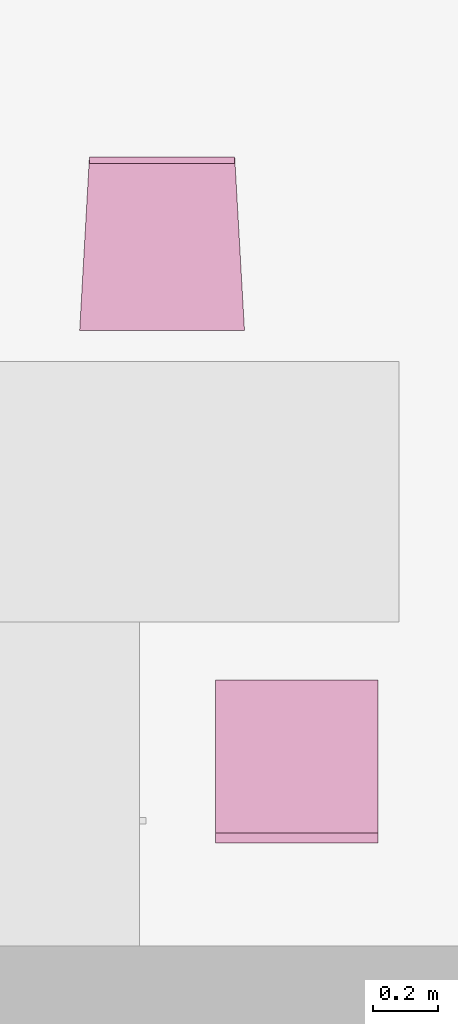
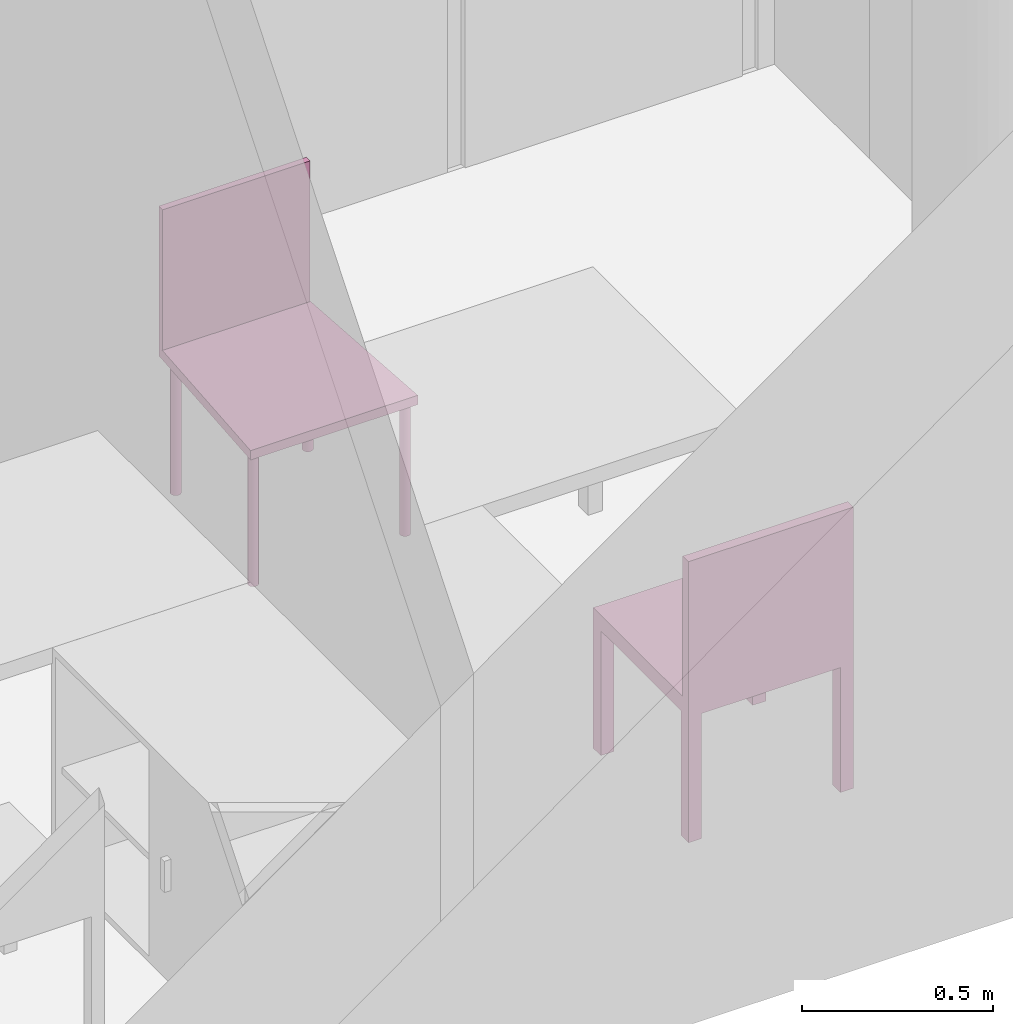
"""IFC4 building model written with IfcOpenShell, lengths in metres."""

from ifc_helpers import new_model, entity, si_unit, converted_unit, derived_unit, frame, origin, place, context, subcontext, project, spatial, faceted_brep, element, save


model = new_model("IFC4")

# Units and contexts
model_context = context("Model", 3, precision=1e-05, world=origin())
body_context = subcontext(model_context, "Body", "Model", "MODEL_VIEW")
ifc_project = project(units=[si_unit("LENGTHUNIT", "METRE"), si_unit("AREAUNIT", "SQUARE_METRE"), si_unit("VOLUMEUNIT", "CUBIC_METRE"), si_unit("MASSUNIT", "GRAM", prefix="KILO"), converted_unit("PLANEANGLEUNIT", "DEGREE", entity("IfcPlaneAngleMeasure", 0.0174532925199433), si_unit("PLANEANGLEUNIT", "RADIAN"), dimensions=[0, 0, 0, 0, 0, 0, 0]), derived_unit("THERMALTRANSMITTANCEUNIT", [(si_unit("POWERUNIT", "WATT"), 1), (si_unit("THERMODYNAMICTEMPERATUREUNIT", "KELVIN"), -1), (si_unit("LENGTHUNIT", "METRE"), -2)]), derived_unit("VOLUMETRICFLOWRATEUNIT", [(si_unit("LENGTHUNIT", "METRE"), 3), (converted_unit("TIMEUNIT", "hour", entity("IfcTimeMeasure", 3600.0), si_unit("TIMEUNIT", "SECOND"), dimensions=[0, 0, 1, 0, 0, 0, 0]), -1), (si_unit("LENGTHUNIT", "METRE"), -1)])], contexts=[model_context])

# Building, storeys
building_placement = place(None, origin())
building = spatial("IfcBuilding", under=ifc_project, at=building_placement, Name="HABITATGE PLURIFAMILIAR", CompositionType="ELEMENT")
storey_1_placement = place(building_placement, frame((0.0, 0.0, 6.25)))
storey_1 = spatial("IfcBuildingStorey", under=building, at=storey_1_placement, Name="PLANTA PRIMERA", CompositionType="ELEMENT", Elevation=6.25)
storey_2_placement = place(storey_1_placement, frame((0.0, 0.0, 3.35)))
storey_2 = spatial("IfcBuildingStorey", under=storey_1, at=storey_2_placement, Name="NOU", CompositionType="PARTIAL")

# Furniture
furniture_1_placement = place(storey_2_placement, frame((419.431199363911, 13.4382607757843, -3.34942958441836)))
element("IfcFurniture", 1, at=furniture_1_placement, inside=storey_2, Name="Cadira d'Oficina_P1", context=body_context, shape_type="Brep", body=[
    faceted_brep([(0.5, 0.5, 0.4), (0.0, 0.5, 0.4), (0.0, 0.0, 0.4), (0.5, 0.0, 0.4), (0.5, 0.0, 0.45), (0.0, 0.0, 0.45), (0.0, 0.5, 0.45), (0.5, 0.5, 0.45)], [[[0, 1, 2, 3]], [[4, 5, 6, 7]], [[3, 4, 7, 0]], [[2, 5, 4, 3]], [[1, 6, 5, 2]], [[0, 7, 6, 1]]], orient=[[False], [False], [False], [False], [False], [False]]),
    faceted_brep([(0.0, 0.04, 0.0), (0.0, 0.0, 0.0), (0.04, 0.0, 0.0), (0.04, 0.04, 0.0), (0.04, 0.04, 0.4), (0.04, 0.0, 0.4), (0.0, 0.0, 0.4), (0.0, 0.04, 0.4)], [[[0, 1, 2, 3]], [[4, 5, 6, 7]], [[3, 4, 7, 0]], [[2, 5, 4, 3]], [[1, 6, 5, 2]], [[0, 7, 6, 1]]], orient=[[False], [False], [False], [False], [False], [False]]),
    faceted_brep([(0.0, 0.5, 0.0), (0.0, 0.46, 0.0), (0.04, 0.46, 0.0), (0.04, 0.5, 0.0), (0.04, 0.5, 0.4), (0.04, 0.46, 0.4), (0.0, 0.46, 0.4), (0.0, 0.5, 0.4)], [[[0, 1, 2, 3]], [[4, 5, 6, 7]], [[3, 4, 7, 0]], [[2, 5, 4, 3]], [[1, 6, 5, 2]], [[0, 7, 6, 1]]], orient=[[False], [False], [False], [False], [False], [False]]),
    faceted_brep([(0.46, 0.04, 0.0), (0.46, 0.0, 0.0), (0.5, 0.0, 0.0), (0.5, 0.04, 0.0), (0.5, 0.04, 0.4), (0.5, 0.0, 0.4), (0.46, 0.0, 0.4), (0.46, 0.04, 0.4)], [[[0, 1, 2, 3]], [[4, 5, 6, 7]], [[3, 4, 7, 0]], [[2, 5, 4, 3]], [[1, 6, 5, 2]], [[0, 7, 6, 1]]], orient=[[False], [False], [False], [False], [False], [False]]),
    faceted_brep([(0.46, 0.5, 0.0), (0.46, 0.46, 0.0), (0.5, 0.46, 0.0), (0.5, 0.5, 0.0), (0.5, 0.5, 0.4), (0.5, 0.46, 0.4), (0.46, 0.46, 0.4), (0.46, 0.5, 0.4)], [[[0, 1, 2, 3]], [[4, 5, 6, 7]], [[3, 4, 7, 0]], [[2, 5, 4, 3]], [[1, 6, 5, 2]], [[0, 7, 6, 1]]], orient=[[False], [False], [False], [False], [False], [False]]),
    faceted_brep([(0.0, 0.03, 0.45), (0.0, 0.0, 0.45), (0.5, 0.0, 0.45), (0.5, 0.03, 0.45), (0.5, 0.03, 0.9), (0.5, 0.0, 0.9), (0.0, 0.0, 0.9), (0.0, 0.03, 0.9)], [[[0, 1, 2, 3]], [[4, 5, 6, 7]], [[3, 4, 7, 0]], [[2, 5, 4, 3]], [[1, 6, 5, 2]], [[0, 7, 6, 1]]], orient=[[False], [False], [False], [False], [False], [False]]),
])
furniture_2_placement = place(storey_2_placement, frame((419.014327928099, 15.013180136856, -3.35114412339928)))
element("IfcFurniture", 2, at=furniture_2_placement, inside=storey_2, Name="Cadira confient_P1", context=body_context, shape_type="Brep", body=[
    faceted_brep([(0.497227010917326, 0.0250324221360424, 0.0), (0.49701133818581, 0.0276273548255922, 0.0), (0.496348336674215, 0.0301454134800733, 0.0), (0.495258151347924, 0.0325100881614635, 0.0), (0.493773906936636, 0.0346495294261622, 0.0), (0.49194070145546, 0.0364987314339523, 0.0), (0.489814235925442, 0.0380015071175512, 0.0), (0.487459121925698, 0.0391121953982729, 0.0), (0.484946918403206, 0.0397970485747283, 0.0), (0.482353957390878, 0.0400352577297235, 0.0), (0.479759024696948, 0.0398195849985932, 0.0), (0.477240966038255, 0.0391565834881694, 0.0), (0.474876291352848, 0.0380663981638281, 0.0), (0.472736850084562, 0.0365821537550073, 0.0), (0.470887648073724, 0.0347489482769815, 0.0), (0.469384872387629, 0.0326224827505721, 0.0), (0.468274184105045, 0.0302673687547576, 0.0), (0.467589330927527, 0.0277551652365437, 0.0), (0.467351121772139, 0.0251622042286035, 0.0), (0.467566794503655, 0.0225672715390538, 0.0), (0.46822979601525, 0.0200492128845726, 0.0), (0.469319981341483, 0.0176845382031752, 0.0), (0.470804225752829, 0.0155450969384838, 0.0), (0.472637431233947, 0.0136958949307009, 0.0), (0.474763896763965, 0.012193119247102, 0.0), (0.477119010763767, 0.0110824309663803, 0.0), (0.479631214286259, 0.0103975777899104, 0.0), (0.482224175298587, 0.0101593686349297, 0.0), (0.484819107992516, 0.0103750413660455, 0.0), (0.48733716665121, 0.0110380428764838, 0.0), (0.489701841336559, 0.0121282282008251, 0.0), (0.491841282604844, 0.0136124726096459, 0.0), (0.493690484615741, 0.0154456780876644, 0.0), (0.495193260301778, 0.0175721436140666, 0.0), (0.49630394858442, 0.0199272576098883, 0.0), (0.496988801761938, 0.0224394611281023, 0.0), (0.497227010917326, 0.0250324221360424, 0.448281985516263), (0.496988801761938, 0.0224394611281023, 0.448281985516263), (0.49630394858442, 0.0199272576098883, 0.448281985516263), (0.495193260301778, 0.0175721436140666, 0.448281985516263), (0.493690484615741, 0.0154456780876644, 0.448281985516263), (0.491841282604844, 0.0136124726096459, 0.448281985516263), (0.489701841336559, 0.0121282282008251, 0.448281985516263), (0.48733716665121, 0.0110380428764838, 0.448281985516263), (0.484819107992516, 0.0103750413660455, 0.448281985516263), (0.482224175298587, 0.0101593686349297, 0.448281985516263), (0.479631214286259, 0.0103975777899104, 0.448281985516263), (0.477119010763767, 0.0110824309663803, 0.448281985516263), (0.474763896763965, 0.012193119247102, 0.448281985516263), (0.472637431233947, 0.0136958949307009, 0.448281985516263), (0.470804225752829, 0.0155450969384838, 0.448281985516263), (0.469319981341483, 0.0176845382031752, 0.448281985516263), (0.46822979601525, 0.0200492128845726, 0.448281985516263), (0.467566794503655, 0.0225672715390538, 0.448281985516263), (0.467351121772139, 0.0251622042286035, 0.448281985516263), (0.467589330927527, 0.0277551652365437, 0.448281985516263), (0.468274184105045, 0.0302673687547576, 0.448281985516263), (0.469384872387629, 0.0326224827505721, 0.448281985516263), (0.470887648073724, 0.0347489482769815, 0.448281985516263), (0.472736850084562, 0.0365821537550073, 0.448281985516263), (0.474876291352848, 0.0380663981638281, 0.448281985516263), (0.477240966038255, 0.0391565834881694, 0.448281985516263), (0.479759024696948, 0.0398195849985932, 0.448281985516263), (0.482353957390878, 0.0400352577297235, 0.448281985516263), (0.484946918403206, 0.0397970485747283, 0.448281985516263), (0.487459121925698, 0.0391121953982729, 0.448281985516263), (0.489814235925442, 0.0380015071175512, 0.448281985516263), (0.49194070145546, 0.0364987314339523, 0.448281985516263), (0.493773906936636, 0.0346495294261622, 0.448281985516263), (0.495258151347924, 0.0325100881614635, 0.448281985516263), (0.496348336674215, 0.0301454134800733, 0.448281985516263), (0.49701133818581, 0.0276273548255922, 0.448281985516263)], [[[0, 1, 2, 3, 4, 5, 6, 7, 8, 9, 10, 11, 12, 13, 14, 15, 16, 17, 18, 19, 20, 21, 22, 23, 24, 25, 26, 27, 28, 29, 30, 31, 32, 33, 34, 35]], [[36, 37, 38, 39, 40, 41, 42, 43, 44, 45, 46, 47, 48, 49, 50, 51, 52, 53, 54, 55, 56, 57, 58, 59, 60, 61, 62, 63, 64, 65, 66, 67, 68, 69, 70, 71]], [[1, 0, 36, 71]], [[2, 1, 71, 70]], [[3, 2, 70, 69]], [[4, 3, 69, 68]], [[5, 4, 68, 67]], [[6, 5, 67, 66]], [[7, 6, 66, 65]], [[8, 7, 65, 64]], [[9, 8, 64, 63]], [[10, 9, 63, 62]], [[11, 10, 62, 61]], [[12, 11, 61, 60]], [[13, 12, 60, 59]], [[14, 13, 59, 58]], [[15, 14, 58, 57]], [[16, 15, 57, 56]], [[17, 16, 56, 55]], [[18, 17, 55, 54]], [[19, 18, 54, 53]], [[20, 19, 53, 52]], [[21, 20, 52, 51]], [[22, 21, 51, 50]], [[23, 22, 50, 49]], [[24, 23, 49, 48]], [[25, 24, 48, 47]], [[26, 25, 47, 46]], [[27, 26, 46, 45]], [[28, 27, 45, 44]], [[29, 28, 44, 43]], [[30, 29, 43, 42]], [[31, 30, 42, 41]], [[32, 31, 41, 40]], [[33, 32, 40, 39]], [[34, 33, 39, 38]], [[35, 34, 38, 37]], [[0, 35, 37, 36]]], orient=[[False], [False], [False], [False], [False], [False], [False], [False], [False], [False], [False], [False], [False], [False], [False], [False], [False], [False], [False], [False], [False], [False], [False], [False], [False], [False], [False], [False], [False], [False], [False], [False], [False], [False], [False], [False], [False], [False]]),
    faceted_brep([(0.469589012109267, 0.487439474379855, 0.0), (0.469373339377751, 0.490034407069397, 0.0), (0.468710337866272, 0.492552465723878, 0.0), (0.467620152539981, 0.494917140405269, 0.0), (0.466135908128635, 0.497056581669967, 0.0), (0.464302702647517, 0.498905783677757, 0.0), (0.462176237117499, 0.500408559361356, 0.0), (0.459821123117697, 0.501519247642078, 0.0), (0.457308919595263, 0.502204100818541, 0.0), (0.454715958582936, 0.502442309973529, 0.0), (0.452121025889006, 0.502226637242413, 0.0), (0.449602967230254, 0.501563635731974, 0.0), (0.447238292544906, 0.500473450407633, 0.0), (0.44509885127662, 0.498989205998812, 0.0), (0.443249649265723, 0.497156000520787, 0.0), (0.441746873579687, 0.495029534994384, 0.0), (0.440636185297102, 0.49267442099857, 0.0), (0.439951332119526, 0.490162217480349, 0.0), (0.439713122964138, 0.487569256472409, 0.0), (0.439928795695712, 0.484974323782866, 0.0), (0.440591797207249, 0.482456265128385, 0.0), (0.441681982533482, 0.480091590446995, 0.0), (0.443166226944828, 0.477952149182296, 0.0), (0.444999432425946, 0.476102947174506, 0.0), (0.447125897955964, 0.474600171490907, 0.0), (0.449481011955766, 0.473489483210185, 0.0), (0.451993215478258, 0.47280463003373, 0.0), (0.454586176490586, 0.472566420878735, 0.0), (0.457181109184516, 0.472782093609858, 0.0), (0.45969916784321, 0.473445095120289, 0.0), (0.462063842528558, 0.47453528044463, 0.0), (0.464203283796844, 0.476019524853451, 0.0), (0.466052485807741, 0.477852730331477, 0.0), (0.467555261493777, 0.479979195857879, 0.0), (0.468665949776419, 0.482334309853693, 0.0), (0.469350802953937, 0.484846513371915, 0.0), (0.469589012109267, 0.487439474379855, 0.448281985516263), (0.469350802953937, 0.484846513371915, 0.448281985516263), (0.468665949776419, 0.482334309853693, 0.448281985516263), (0.467555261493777, 0.479979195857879, 0.448281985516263), (0.466052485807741, 0.477852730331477, 0.448281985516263), (0.464203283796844, 0.476019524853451, 0.448281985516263), (0.462063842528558, 0.47453528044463, 0.448281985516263), (0.45969916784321, 0.473445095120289, 0.448281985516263), (0.457181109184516, 0.472782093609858, 0.448281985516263), (0.454586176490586, 0.472566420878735, 0.448281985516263), (0.451993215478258, 0.47280463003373, 0.448281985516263), (0.449481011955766, 0.473489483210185, 0.448281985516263), (0.447125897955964, 0.474600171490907, 0.448281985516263), (0.444999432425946, 0.476102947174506, 0.448281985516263), (0.443166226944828, 0.477952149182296, 0.448281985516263), (0.441681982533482, 0.480091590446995, 0.448281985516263), (0.440591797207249, 0.482456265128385, 0.448281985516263), (0.439928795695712, 0.484974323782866, 0.448281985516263), (0.439713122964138, 0.487569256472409, 0.448281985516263), (0.439951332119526, 0.490162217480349, 0.448281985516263), (0.440636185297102, 0.49267442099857, 0.448281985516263), (0.441746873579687, 0.495029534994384, 0.448281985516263), (0.443249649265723, 0.497156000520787, 0.448281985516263), (0.44509885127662, 0.498989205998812, 0.448281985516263), (0.447238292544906, 0.500473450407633, 0.448281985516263), (0.449602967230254, 0.501563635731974, 0.448281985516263), (0.452121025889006, 0.502226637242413, 0.448281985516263), (0.454715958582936, 0.502442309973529, 0.448281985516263), (0.457308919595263, 0.502204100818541, 0.448281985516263), (0.459821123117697, 0.501519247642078, 0.448281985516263), (0.462176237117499, 0.500408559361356, 0.448281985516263), (0.464302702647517, 0.498905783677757, 0.448281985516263), (0.466135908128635, 0.497056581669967, 0.448281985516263), (0.467620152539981, 0.494917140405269, 0.448281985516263), (0.468710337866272, 0.492552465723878, 0.448281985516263), (0.469373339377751, 0.490034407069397, 0.448281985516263)], [[[0, 1, 2, 3, 4, 5, 6, 7, 8, 9, 10, 11, 12, 13, 14, 15, 16, 17, 18, 19, 20, 21, 22, 23, 24, 25, 26, 27, 28, 29, 30, 31, 32, 33, 34, 35]], [[36, 37, 38, 39, 40, 41, 42, 43, 44, 45, 46, 47, 48, 49, 50, 51, 52, 53, 54, 55, 56, 57, 58, 59, 60, 61, 62, 63, 64, 65, 66, 67, 68, 69, 70, 71]], [[1, 0, 36, 71]], [[2, 1, 71, 70]], [[3, 2, 70, 69]], [[4, 3, 69, 68]], [[5, 4, 68, 67]], [[6, 5, 67, 66]], [[7, 6, 66, 65]], [[8, 7, 65, 64]], [[9, 8, 64, 63]], [[10, 9, 63, 62]], [[11, 10, 62, 61]], [[12, 11, 61, 60]], [[13, 12, 60, 59]], [[14, 13, 59, 58]], [[15, 14, 58, 57]], [[16, 15, 57, 56]], [[17, 16, 56, 55]], [[18, 17, 55, 54]], [[19, 18, 54, 53]], [[20, 19, 53, 52]], [[21, 20, 52, 51]], [[22, 21, 51, 50]], [[23, 22, 50, 49]], [[24, 23, 49, 48]], [[25, 24, 48, 47]], [[26, 25, 47, 46]], [[27, 26, 46, 45]], [[28, 27, 45, 44]], [[29, 28, 44, 43]], [[30, 29, 43, 42]], [[31, 30, 42, 41]], [[32, 31, 41, 40]], [[33, 32, 40, 39]], [[34, 33, 39, 38]], [[35, 34, 38, 37]], [[0, 35, 37, 36]]], orient=[[False], [False], [False], [False], [False], [False], [False], [False], [False], [False], [False], [False], [False], [False], [False], [False], [False], [False], [False], [False], [False], [False], [False], [False], [False], [False], [False], [False], [False], [False], [False], [False], [False], [False], [False], [False], [False], [False]]),
    faceted_brep([(0.0372270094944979, 0.0250324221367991, 0.0), (0.0370113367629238, 0.0276273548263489, 0.0), (0.0363483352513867, 0.0301454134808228, 0.0), (0.0352581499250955, 0.0325100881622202, 0.0), (0.0337739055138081, 0.0346495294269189, 0.0), (0.0319407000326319, 0.0364987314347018, 0.0), (0.0298142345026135, 0.0380015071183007, 0.0), (0.0274591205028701, 0.0391121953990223, 0.0), (0.0249469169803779, 0.039797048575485, 0.0), (0.0223539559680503, 0.040035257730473, 0.0), (0.0197590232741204, 0.0398195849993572, 0.0), (0.0172409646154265, 0.0391565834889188, 0.0), (0.0148762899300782, 0.0380663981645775, 0.0), (0.0127368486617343, 0.0365821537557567, 0.0), (0.0108876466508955, 0.0347489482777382, 0.0), (0.00938487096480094, 0.0326224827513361, 0.0), (0.00827418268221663, 0.0302673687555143, 0.0), (0.00758932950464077, 0.0277551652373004, 0.0), (0.0073511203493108, 0.0251622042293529, 0.0), (0.00756679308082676, 0.0225672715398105, 0.0), (0.00822979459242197, 0.0200492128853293, 0.0), (0.00931997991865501, 0.0176845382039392, 0.0), (0.0108042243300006, 0.0155450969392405, 0.0), (0.0126374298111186, 0.0136958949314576, 0.0), (0.0147638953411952, 0.0121931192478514, 0.0), (0.0171190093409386, 0.0110824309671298, 0.0), (0.0196312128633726, 0.0103975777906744, 0.0), (0.0222241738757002, 0.0101593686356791, 0.0), (0.0248191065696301, 0.0103750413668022, 0.0), (0.0273371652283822, 0.0110380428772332, 0.0), (0.0297018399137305, 0.0121282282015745, 0.0), (0.0318412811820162, 0.0136124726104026, 0.0), (0.0336904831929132, 0.0154456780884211, 0.0), (0.0351932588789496, 0.0175721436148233, 0.0), (0.0363039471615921, 0.0199272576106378, 0.0), (0.0369888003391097, 0.022439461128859, 0.0), (0.0372270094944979, 0.0250324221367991, 0.448281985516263), (0.0369888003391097, 0.022439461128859, 0.448281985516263), (0.0363039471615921, 0.0199272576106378, 0.448281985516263), (0.0351932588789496, 0.0175721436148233, 0.448281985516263), (0.0336904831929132, 0.0154456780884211, 0.448281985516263), (0.0318412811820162, 0.0136124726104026, 0.448281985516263), (0.0297018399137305, 0.0121282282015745, 0.448281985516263), (0.0273371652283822, 0.0110380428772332, 0.448281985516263), (0.0248191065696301, 0.0103750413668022, 0.448281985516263), (0.0222241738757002, 0.0101593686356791, 0.448281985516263), (0.0196312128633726, 0.0103975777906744, 0.448281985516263), (0.0171190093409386, 0.0110824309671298, 0.448281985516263), (0.0147638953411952, 0.0121931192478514, 0.448281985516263), (0.0126374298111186, 0.0136958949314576, 0.448281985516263), (0.0108042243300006, 0.0155450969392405, 0.448281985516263), (0.00931997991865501, 0.0176845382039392, 0.448281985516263), (0.00822979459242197, 0.0200492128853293, 0.448281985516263), (0.00756679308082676, 0.0225672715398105, 0.448281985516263), (0.0073511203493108, 0.0251622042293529, 0.448281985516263), (0.00758932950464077, 0.0277551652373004, 0.448281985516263), (0.00827418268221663, 0.0302673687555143, 0.448281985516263), (0.00938487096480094, 0.0326224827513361, 0.448281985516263), (0.0108876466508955, 0.0347489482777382, 0.448281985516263), (0.0127368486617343, 0.0365821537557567, 0.448281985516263), (0.0148762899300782, 0.0380663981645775, 0.448281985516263), (0.0172409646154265, 0.0391565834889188, 0.448281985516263), (0.0197590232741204, 0.0398195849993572, 0.448281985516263), (0.0223539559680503, 0.040035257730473, 0.448281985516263), (0.0249469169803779, 0.039797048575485, 0.448281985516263), (0.0274591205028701, 0.0391121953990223, 0.448281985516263), (0.0298142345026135, 0.0380015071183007, 0.448281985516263), (0.0319407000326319, 0.0364987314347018, 0.448281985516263), (0.0337739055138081, 0.0346495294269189, 0.448281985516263), (0.0352581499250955, 0.0325100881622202, 0.448281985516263), (0.0363483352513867, 0.0301454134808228, 0.448281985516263), (0.0370113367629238, 0.0276273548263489, 0.448281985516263)], [[[0, 1, 2, 3, 4, 5, 6, 7, 8, 9, 10, 11, 12, 13, 14, 15, 16, 17, 18, 19, 20, 21, 22, 23, 24, 25, 26, 27, 28, 29, 30, 31, 32, 33, 34, 35]], [[36, 37, 38, 39, 40, 41, 42, 43, 44, 45, 46, 47, 48, 49, 50, 51, 52, 53, 54, 55, 56, 57, 58, 59, 60, 61, 62, 63, 64, 65, 66, 67, 68, 69, 70, 71]], [[1, 0, 36, 71]], [[2, 1, 71, 70]], [[3, 2, 70, 69]], [[4, 3, 69, 68]], [[5, 4, 68, 67]], [[6, 5, 67, 66]], [[7, 6, 66, 65]], [[8, 7, 65, 64]], [[9, 8, 64, 63]], [[10, 9, 63, 62]], [[11, 10, 62, 61]], [[12, 11, 61, 60]], [[13, 12, 60, 59]], [[14, 13, 59, 58]], [[15, 14, 58, 57]], [[16, 15, 57, 56]], [[17, 16, 56, 55]], [[18, 17, 55, 54]], [[19, 18, 54, 53]], [[20, 19, 53, 52]], [[21, 20, 52, 51]], [[22, 21, 51, 50]], [[23, 22, 50, 49]], [[24, 23, 49, 48]], [[25, 24, 48, 47]], [[26, 25, 47, 46]], [[27, 26, 46, 45]], [[28, 27, 45, 44]], [[29, 28, 44, 43]], [[30, 29, 43, 42]], [[31, 30, 42, 41]], [[32, 31, 41, 40]], [[33, 32, 40, 39]], [[34, 33, 39, 38]], [[35, 34, 38, 37]], [[0, 35, 37, 36]]], orient=[[False], [False], [False], [False], [False], [False], [False], [False], [False], [False], [False], [False], [False], [False], [False], [False], [False], [False], [False], [False], [False], [False], [False], [False], [False], [False], [False], [False], [False], [False], [False], [False], [False], [False], [False], [False], [False], [False]]),
    faceted_brep([(0.0695890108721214, 0.487439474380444, 0.0), (0.0693733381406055, 0.490034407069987, 0.0), (0.0687103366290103, 0.492552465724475, 0.0), (0.0676201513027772, 0.494917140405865, 0.0), (0.0661359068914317, 0.497056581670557, 0.0), (0.0643027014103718, 0.498905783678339, 0.0), (0.0621762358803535, 0.500408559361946, 0.0), (0.0598211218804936, 0.501519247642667, 0.0), (0.0573089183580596, 0.50220410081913, 0.0), (0.054715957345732, 0.502442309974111, 0.0), (0.0521210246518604, 0.502226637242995, 0.0), (0.04960296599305, 0.501563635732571, 0.0), (0.0472382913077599, 0.50047345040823, 0.0), (0.0450988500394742, 0.498989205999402, 0.0), (0.043249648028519, 0.497156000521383, 0.0), (0.0417468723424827, 0.495029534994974, 0.0), (0.0406361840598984, 0.492674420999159, 0.0), (0.0399513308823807, 0.490162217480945, 0.0), (0.0397131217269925, 0.487569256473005, 0.0), (0.0399287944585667, 0.484974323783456, 0.0), (0.0405917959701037, 0.482456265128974, 0.0), (0.0416819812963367, 0.480091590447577, 0.0), (0.0431662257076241, 0.477952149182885, 0.0), (0.0449994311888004, 0.476102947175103, 0.0), (0.0471258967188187, 0.474600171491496, 0.0), (0.0494810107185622, 0.473489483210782, 0.0), (0.0519932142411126, 0.472804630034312, 0.0), (0.054586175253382, 0.472566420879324, 0.0), (0.0571811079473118, 0.472782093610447, 0.0), (0.0596991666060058, 0.473445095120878, 0.0), (0.0620638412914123, 0.474535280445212, 0.0), (0.064203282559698, 0.47601952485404, 0.0), (0.0660524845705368, 0.477852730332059, 0.0), (0.0675552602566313, 0.479979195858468, 0.0), (0.0686659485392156, 0.48233430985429, 0.0), (0.0693508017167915, 0.484846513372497, 0.0), (0.0695890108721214, 0.487439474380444, 0.448281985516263), (0.0693508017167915, 0.484846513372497, 0.448281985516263), (0.0686659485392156, 0.48233430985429, 0.448281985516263), (0.0675552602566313, 0.479979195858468, 0.448281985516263), (0.0660524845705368, 0.477852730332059, 0.448281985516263), (0.064203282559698, 0.47601952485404, 0.448281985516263), (0.0620638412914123, 0.474535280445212, 0.448281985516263), (0.0596991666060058, 0.473445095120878, 0.448281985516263), (0.0571811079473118, 0.472782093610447, 0.448281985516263), (0.054586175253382, 0.472566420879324, 0.448281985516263), (0.0519932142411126, 0.472804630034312, 0.448281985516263), (0.0494810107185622, 0.473489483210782, 0.448281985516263), (0.0471258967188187, 0.474600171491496, 0.448281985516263), (0.0449994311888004, 0.476102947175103, 0.448281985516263), (0.0431662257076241, 0.477952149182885, 0.448281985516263), (0.0416819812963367, 0.480091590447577, 0.448281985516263), (0.0405917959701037, 0.482456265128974, 0.448281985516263), (0.0399287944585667, 0.484974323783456, 0.448281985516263), (0.0397131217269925, 0.487569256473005, 0.448281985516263), (0.0399513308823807, 0.490162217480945, 0.448281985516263), (0.0406361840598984, 0.492674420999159, 0.448281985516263), (0.0417468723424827, 0.495029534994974, 0.448281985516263), (0.043249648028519, 0.497156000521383, 0.448281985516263), (0.0450988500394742, 0.498989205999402, 0.448281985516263), (0.0472382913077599, 0.50047345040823, 0.448281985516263), (0.04960296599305, 0.501563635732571, 0.448281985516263), (0.0521210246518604, 0.502226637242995, 0.448281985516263), (0.054715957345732, 0.502442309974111, 0.448281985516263), (0.0573089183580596, 0.50220410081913, 0.448281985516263), (0.0598211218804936, 0.501519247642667, 0.448281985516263), (0.0621762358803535, 0.500408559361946, 0.448281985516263), (0.0643027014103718, 0.498905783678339, 0.448281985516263), (0.0661359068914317, 0.497056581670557, 0.448281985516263), (0.0676201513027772, 0.494917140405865, 0.448281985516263), (0.0687103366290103, 0.492552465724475, 0.448281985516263), (0.0693733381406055, 0.490034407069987, 0.448281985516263)], [[[0, 1, 2, 3, 4, 5, 6, 7, 8, 9, 10, 11, 12, 13, 14, 15, 16, 17, 18, 19, 20, 21, 22, 23, 24, 25, 26, 27, 28, 29, 30, 31, 32, 33, 34, 35]], [[36, 37, 38, 39, 40, 41, 42, 43, 44, 45, 46, 47, 48, 49, 50, 51, 52, 53, 54, 55, 56, 57, 58, 59, 60, 61, 62, 63, 64, 65, 66, 67, 68, 69, 70, 71]], [[1, 0, 36, 71]], [[2, 1, 71, 70]], [[3, 2, 70, 69]], [[4, 3, 69, 68]], [[5, 4, 68, 67]], [[6, 5, 67, 66]], [[7, 6, 66, 65]], [[8, 7, 65, 64]], [[9, 8, 64, 63]], [[10, 9, 63, 62]], [[11, 10, 62, 61]], [[12, 11, 61, 60]], [[13, 12, 60, 59]], [[14, 13, 59, 58]], [[15, 14, 58, 57]], [[16, 15, 57, 56]], [[17, 16, 56, 55]], [[18, 17, 55, 54]], [[19, 18, 54, 53]], [[20, 19, 53, 52]], [[21, 20, 52, 51]], [[22, 21, 51, 50]], [[23, 22, 50, 49]], [[24, 23, 49, 48]], [[25, 24, 48, 47]], [[26, 25, 47, 46]], [[27, 26, 46, 45]], [[28, 27, 45, 44]], [[29, 28, 44, 43]], [[30, 29, 43, 42]], [[31, 30, 42, 41]], [[32, 31, 41, 40]], [[33, 32, 40, 39]], [[34, 33, 39, 38]], [[35, 34, 38, 37]], [[0, 35, 37, 36]]], orient=[[False], [False], [False], [False], [False], [False], [False], [False], [False], [False], [False], [False], [False], [False], [False], [False], [False], [False], [False], [False], [False], [False], [False], [False], [False], [False], [False], [False], [False], [False], [False], [False], [False], [False], [False], [False], [False], [False]]),
    faceted_brep([(0.0300000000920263, 0.532607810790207, 0.418281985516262), (0.0, 0.0, 0.418281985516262), (0.506514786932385, 0.0, 0.418281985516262), (0.476514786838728, 0.532607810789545, 0.418281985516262), (0.0, 0.0, 0.448281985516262), (0.0300000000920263, 0.532607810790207, 0.448281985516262), (0.476514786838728, 0.532607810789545, 0.448281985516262), (0.506514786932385, 0.0, 0.448281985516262)], [[[0, 1, 2, 3]], [[4, 5, 6, 7]], [[1, 0, 5, 4]], [[2, 1, 4, 7]], [[3, 2, 7, 6]], [[0, 3, 6, 5]]], orient=[[False], [False], [False], [False], [False], [False]]),
    faceted_brep([(0.0300000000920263, 0.512607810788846, 0.448281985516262), (0.476514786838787, 0.512607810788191, 0.448281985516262), (0.476514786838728, 0.532607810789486, 0.448281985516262), (0.0300000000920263, 0.532607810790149, 0.448281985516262), (0.476514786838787, 0.512607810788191, 0.898281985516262), (0.0300000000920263, 0.512607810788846, 0.898281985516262), (0.0300000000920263, 0.532607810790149, 0.898281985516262), (0.476514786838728, 0.532607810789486, 0.898281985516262)], [[[0, 1, 2, 3]], [[4, 5, 6, 7]], [[1, 0, 5, 4]], [[2, 1, 4, 7]], [[3, 2, 7, 6]], [[0, 3, 6, 5]]], orient=[[False], [False], [False], [False], [False], [False]]),
])

save(model, "model.ifc")
